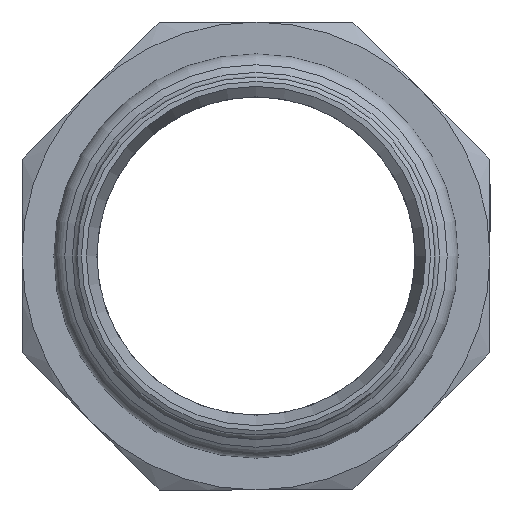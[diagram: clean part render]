
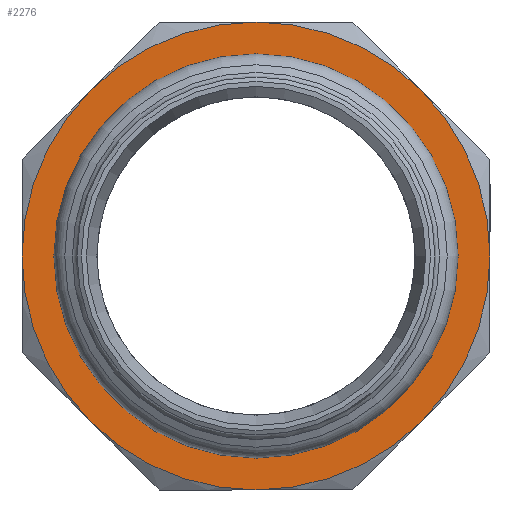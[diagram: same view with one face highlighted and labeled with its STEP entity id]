
A CAD part, left-side view. The second image highlights one B-rep face of the part: STEP entity #2276.
In plain terms, the highlighted planar face has unit normal (-1, 0, 0) as drawn and (0, 0, -1) by its records, which use the part's own axes.
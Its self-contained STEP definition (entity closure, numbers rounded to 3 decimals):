
#1692=CARTESIAN_POINT('',(26.517,26.517,-23.));
#1693=VERTEX_POINT('',#1692);
#1707=CARTESIAN_POINT('',(37.5,0.0,-23.));
#1708=VERTEX_POINT('',#1707);
#1722=CARTESIAN_POINT('',(0.0,0.0,-23.));
#1723=DIRECTION('',(0.0,0.0,-1.0));
#1724=DIRECTION('',(0.0,-1.0,0.0));
#1725=AXIS2_PLACEMENT_3D('',#1722,#1723,#1724);
#1726=CIRCLE('',#1725,37.5);
#1727=EDGE_CURVE('',#1693,#1708,#1726,.T.);
#1739=CARTESIAN_POINT('',(0.0,37.5,-23.));
#1740=VERTEX_POINT('',#1739);
#1767=CARTESIAN_POINT('',(0.0,0.0,-23.));
#1768=DIRECTION('',(0.0,0.0,-1.0));
#1769=DIRECTION('',(0.0,-1.0,0.0));
#1770=AXIS2_PLACEMENT_3D('',#1767,#1768,#1769);
#1771=CIRCLE('',#1770,37.5);
#1772=EDGE_CURVE('',#1740,#1693,#1771,.T.);
#1784=CARTESIAN_POINT('',(-26.517,26.517,-23.));
#1785=VERTEX_POINT('',#1784);
#1812=CARTESIAN_POINT('',(0.0,0.0,-23.));
#1813=DIRECTION('',(0.0,0.0,-1.0));
#1814=DIRECTION('',(0.0,-1.0,0.0));
#1815=AXIS2_PLACEMENT_3D('',#1812,#1813,#1814);
#1816=CIRCLE('',#1815,37.5);
#1817=EDGE_CURVE('',#1785,#1740,#1816,.T.);
#1842=CARTESIAN_POINT('',(-37.5,0.,-23.));
#1843=VERTEX_POINT('',#1842);
#1844=CARTESIAN_POINT('',(0.0,0.0,-23.));
#1845=DIRECTION('',(0.0,0.0,-1.0));
#1846=DIRECTION('',(0.0,-1.0,0.0));
#1847=AXIS2_PLACEMENT_3D('',#1844,#1845,#1846);
#1848=CIRCLE('',#1847,37.5);
#1849=EDGE_CURVE('',#1843,#1785,#1848,.T.);
#1887=CARTESIAN_POINT('',(-26.517,-26.517,-23.));
#1888=VERTEX_POINT('',#1887);
#1889=CARTESIAN_POINT('',(0.0,0.0,-23.));
#1890=DIRECTION('',(0.0,0.0,-1.0));
#1891=DIRECTION('',(0.0,-1.0,0.0));
#1892=AXIS2_PLACEMENT_3D('',#1889,#1890,#1891);
#1893=CIRCLE('',#1892,37.5);
#1894=EDGE_CURVE('',#1888,#1843,#1893,.T.);
#1932=CARTESIAN_POINT('',(0.0,-37.5,-23.));
#1933=VERTEX_POINT('',#1932);
#1934=CARTESIAN_POINT('',(0.0,0.0,-23.));
#1935=DIRECTION('',(0.0,0.0,-1.0));
#1936=DIRECTION('',(0.0,-1.0,0.0));
#1937=AXIS2_PLACEMENT_3D('',#1934,#1935,#1936);
#1938=CIRCLE('',#1937,37.5);
#1939=EDGE_CURVE('',#1933,#1888,#1938,.T.);
#1977=CARTESIAN_POINT('',(26.517,-26.517,-23.));
#1978=VERTEX_POINT('',#1977);
#1979=CARTESIAN_POINT('',(0.0,0.0,-23.));
#1980=DIRECTION('',(0.0,0.0,-1.0));
#1981=DIRECTION('',(0.0,-1.0,0.0));
#1982=AXIS2_PLACEMENT_3D('',#1979,#1980,#1981);
#1983=CIRCLE('',#1982,37.5);
#1984=EDGE_CURVE('',#1978,#1933,#1983,.T.);
#2022=CARTESIAN_POINT('',(0.0,0.0,-23.));
#2023=DIRECTION('',(0.0,0.0,-1.0));
#2024=DIRECTION('',(0.0,-1.0,0.0));
#2025=AXIS2_PLACEMENT_3D('',#2022,#2023,#2024);
#2026=CIRCLE('',#2025,37.5);
#2027=EDGE_CURVE('',#1708,#1978,#2026,.T.);
#2175=CARTESIAN_POINT('',(-29.,0.,-23.));
#2176=VERTEX_POINT('',#2175);
#2177=CARTESIAN_POINT('',(0.0,0.0,-23.));
#2178=DIRECTION('',(0.0,0.0,1.0));
#2179=DIRECTION('',(1.0,0.0,0.0));
#2180=AXIS2_PLACEMENT_3D('',#2177,#2178,#2179);
#2181=CIRCLE('',#2180,29.);
#2182=EDGE_CURVE('',#2176,#2176,#2181,.T.);
#2258=CARTESIAN_POINT('',(0.,0.,-23.));
#2259=DIRECTION('',(0.0,0.0,1.0));
#2260=DIRECTION('',(1.0,0.0,0.0));
#2261=AXIS2_PLACEMENT_3D('',#2258,#2259,#2260);
#2262=PLANE('',#2261);
#2263=ORIENTED_EDGE('',*,*,#2027,.T.);
#2264=ORIENTED_EDGE('',*,*,#1984,.T.);
#2265=ORIENTED_EDGE('',*,*,#1939,.T.);
#2266=ORIENTED_EDGE('',*,*,#1894,.T.);
#2267=ORIENTED_EDGE('',*,*,#1849,.T.);
#2268=ORIENTED_EDGE('',*,*,#1817,.T.);
#2269=ORIENTED_EDGE('',*,*,#1772,.T.);
#2270=ORIENTED_EDGE('',*,*,#1727,.T.);
#2271=EDGE_LOOP('',(#2263,#2264,#2265,#2266,#2267,#2268,#2269,#2270));
#2272=FACE_OUTER_BOUND('',#2271,.T.);
#2273=ORIENTED_EDGE('',*,*,#2182,.T.);
#2274=EDGE_LOOP('',(#2273));
#2275=FACE_BOUND('',#2274,.T.);
#2276=ADVANCED_FACE('',(#2272,#2275),#2262,.F.);
